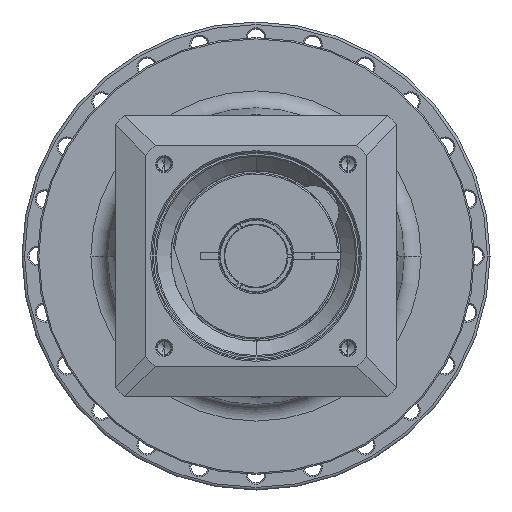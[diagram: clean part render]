
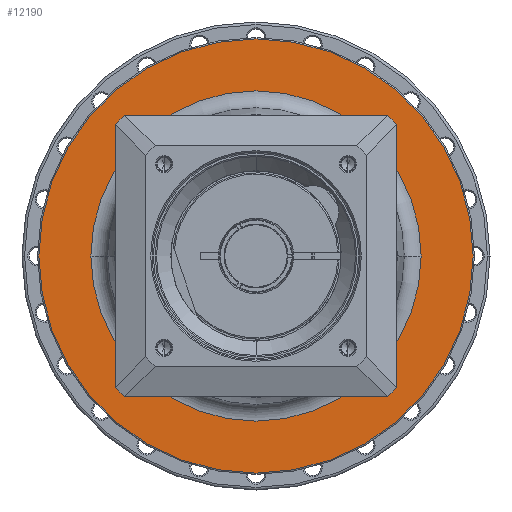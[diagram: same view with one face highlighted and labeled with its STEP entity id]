
A CAD part, left-side view. The second image highlights one B-rep face of the part: STEP entity #12190.
In plain terms, the highlighted planar face has unit normal (-1, 0, 0) as drawn and (1, 0, 0) by its records, which use the part's own axes.
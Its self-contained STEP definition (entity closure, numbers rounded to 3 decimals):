
#11730=CARTESIAN_POINT('',(-28.5,0.,0.));
#11731=DIRECTION('',(-1.,0.,0.));
#11732=DIRECTION('',(0.,1.,0.));
#11733=AXIS2_PLACEMENT_3D('',#11730,#11731,#11732);
#11740=CARTESIAN_POINT('',(-28.5,0.,0.));
#11741=DIRECTION('',(1.,0.,0.));
#11742=DIRECTION('',(0.,1.,0.));
#11743=AXIS2_PLACEMENT_3D('',#11740,#11741,#11742);
#11745=CARTESIAN_POINT('',(-28.5,0.,0.));
#11746=DIRECTION('',(-1.,0.,0.));
#11747=DIRECTION('',(0.,-1.,0.));
#11748=AXIS2_PLACEMENT_3D('',#11745,#11746,#11747);
#11750=CARTESIAN_POINT('',(-28.5,0.,0.));
#11751=DIRECTION('',(-1.,0.,0.));
#11752=DIRECTION('',(0.,1.,0.));
#11753=AXIS2_PLACEMENT_3D('',#11750,#11751,#11752);
#11875=CARTESIAN_POINT('',(-28.5,-83.5,0.));
#11876=CARTESIAN_POINT('',(-28.5,83.5,0.));
#11877=VERTEX_POINT('',#11875);
#11878=VERTEX_POINT('',#11876);
#11899=CARTESIAN_POINT('',(-28.5,63.5,0.));
#11901=VERTEX_POINT('',#11899);
#11903=CARTESIAN_POINT('',(-28.5,-63.5,0.));
#11905=VERTEX_POINT('',#11903);
#12175=CARTESIAN_POINT('',(-28.5,0.,0.));
#12176=DIRECTION('',(1.,0.,0.));
#12177=DIRECTION('',(0.,-1.,0.));
#12178=AXIS2_PLACEMENT_3D('',#12175,#12176,#12177);
#12179=PLANE('',#12178);
#12181=ORIENTED_EDGE('',*,*,#12180,.T.);
#12183=ORIENTED_EDGE('',*,*,#12182,.T.);
#12184=EDGE_LOOP('',(#12181,#12183));
#12185=FACE_OUTER_BOUND('',#12184,.F.);
#12186=ORIENTED_EDGE('',*,*,#12170,.T.);
#12187=ORIENTED_EDGE('',*,*,#12154,.F.);
#12188=EDGE_LOOP('',(#12186,#12187));
#12189=FACE_BOUND('',#12188,.F.);
#12190=ADVANCED_FACE('',(#12185,#12189),#12179,.T.);
#11734=CIRCLE('',#11733,63.5);
#11744=CIRCLE('',#11743,63.5);
#11749=CIRCLE('',#11748,83.5);
#11754=CIRCLE('',#11753,83.5);
#12154=EDGE_CURVE('',#11901,#11905,#11734,.T.);
#12170=EDGE_CURVE('',#11901,#11905,#11744,.T.);
#12180=EDGE_CURVE('',#11877,#11878,#11749,.T.);
#12182=EDGE_CURVE('',#11878,#11877,#11754,.T.);
